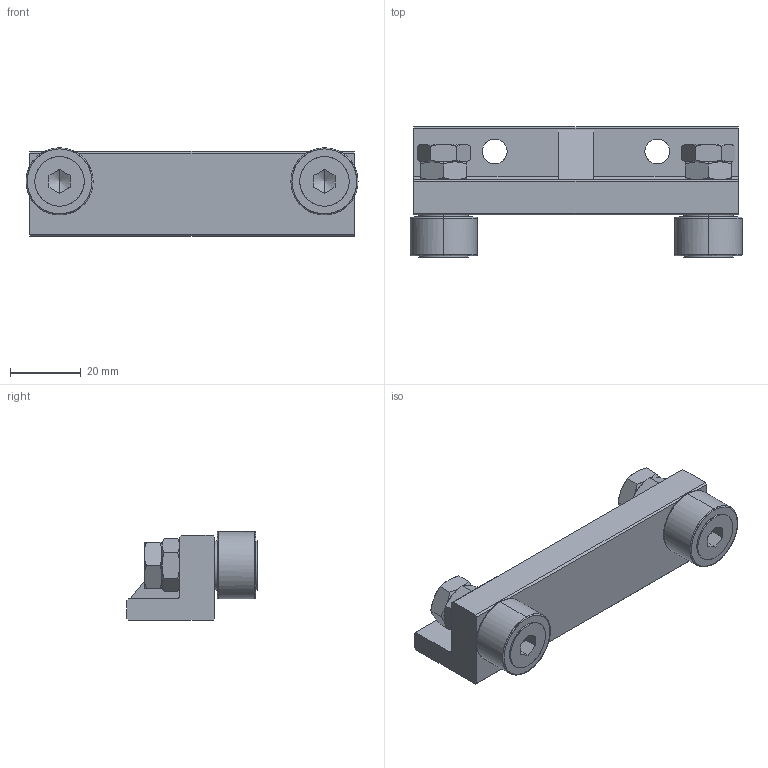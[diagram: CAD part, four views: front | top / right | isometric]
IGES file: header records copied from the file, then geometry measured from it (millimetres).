
Global section: file name: No Iges File Name specified; native system: AutoDesk Inventor R10; preprocessor: AutoDesk Inventor Iges Exporter R10; author: No Author specified; organization: No Organization specified; date: 20101225.153342; units: millimetre
Bounding box: 94 x 37 x 25 mm (x, y, z)
Surface area: 12808.9 mm2 (no closed solid volume)
Topology: 0 solids, 0 shells, 164 faces, 848 edges, 844 vertices
Faces by surface type: bspline 164
